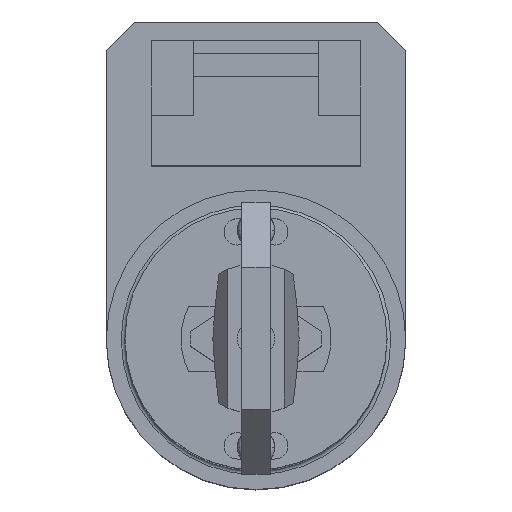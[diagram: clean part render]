
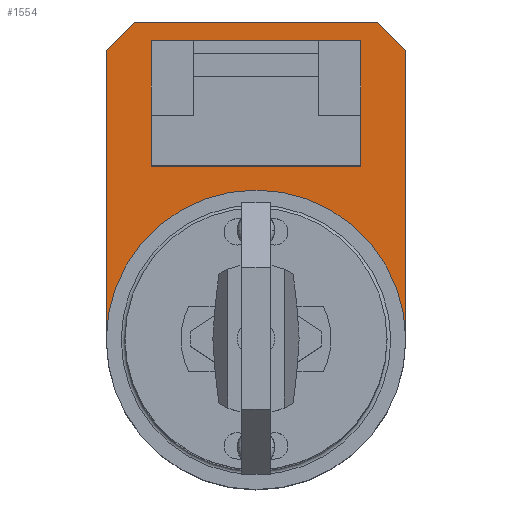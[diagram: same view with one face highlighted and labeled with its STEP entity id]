
A CAD part, top view. The second image highlights one B-rep face of the part: STEP entity #1554.
In plain terms, the highlighted planar face has unit normal (0, 0, 1).
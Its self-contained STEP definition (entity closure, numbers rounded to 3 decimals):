
#16 = CARTESIAN_POINT ( 'NONE',  ( 8., 15.5, -39.3 ) ) ;
#39 = EDGE_CURVE ( 'NONE', #1987, #528, #848, .T. ) ;
#111 = EDGE_CURVE ( 'NONE', #1731, #2351, #3407, .T. ) ;
#123 = AXIS2_PLACEMENT_3D ( 'NONE', #247, #3716, #4091 ) ;
#170 = EDGE_LOOP ( 'NONE', ( #1359, #1247, #4106, #1496 ) ) ;
#182 = ORIENTED_EDGE ( 'NONE', *, *, #4431, .F. ) ;
#193 = VECTOR ( 'NONE', #2693, 1000. ) ;
#208 = EDGE_CURVE ( 'NONE', #3262, #4344, #1489, .T. ) ;
#247 = CARTESIAN_POINT ( 'NONE',  ( 0., 0., -39.3 ) ) ;
#340 = CARTESIAN_POINT ( 'NONE',  ( 5.6, 16., -39.3 ) ) ;
#366 = VECTOR ( 'NONE', #943, 1000. ) ;
#414 = VERTEX_POINT ( 'NONE', #1487 ) ;
#422 = CARTESIAN_POINT ( 'NONE',  ( -5.6, 9.3, -39.3 ) ) ;
#431 = FACE_BOUND ( 'NONE', #170, .T. ) ;
#478 = EDGE_CURVE ( 'NONE', #4344, #1987, #1056, .T. ) ;
#528 = VERTEX_POINT ( 'NONE', #854 ) ;
#550 = AXIS2_PLACEMENT_3D ( 'NONE', #2145, #2843, #3546 ) ;
#562 = CARTESIAN_POINT ( 'NONE',  ( -5.6, 9.3, -39.3 ) ) ;
#629 = ORIENTED_EDGE ( 'NONE', *, *, #3724, .F. ) ;
#659 = VERTEX_POINT ( 'NONE', #3375 ) ;
#818 = EDGE_CURVE ( 'NONE', #659, #1731, #2193, .T. ) ;
#843 = VECTOR ( 'NONE', #2860, 1000. ) ;
#848 = LINE ( 'NONE', #975, #193 ) ;
#854 = CARTESIAN_POINT ( 'NONE',  ( -5.6, 16., -39.3 ) ) ;
#878 = ORIENTED_EDGE ( 'NONE', *, *, #2372, .F. ) ;
#898 = VECTOR ( 'NONE', #3009, 1000. ) ;
#930 = ORIENTED_EDGE ( 'NONE', *, *, #3771, .F. ) ;
#943 = DIRECTION ( 'NONE',  ( 0., 1., 0. ) ) ;
#975 = CARTESIAN_POINT ( 'NONE',  ( -5.6, 16., -39.3 ) ) ;
#1006 = DIRECTION ( 'NONE',  ( 1., 0., 0. ) ) ;
#1056 = LINE ( 'NONE', #340, #2370 ) ;
#1141 = CIRCLE ( 'NONE', #123, 8. ) ;
#1163 = CARTESIAN_POINT ( 'NONE',  ( -8., 15.5, -39.3 ) ) ;
#1179 = LINE ( 'NONE', #2278, #366 ) ;
#1232 = CARTESIAN_POINT ( 'NONE',  ( 5.6, 9.3, -39.3 ) ) ;
#1247 = ORIENTED_EDGE ( 'NONE', *, *, #39, .F. ) ;
#1267 = CARTESIAN_POINT ( 'NONE',  ( -6.5, 17., -39.3 ) ) ;
#1323 = DIRECTION ( 'NONE',  ( 0., -1., 0. ) ) ;
#1359 = ORIENTED_EDGE ( 'NONE', *, *, #2844, .F. ) ;
#1425 = DIRECTION ( 'NONE',  ( 0.707, -0.707, 0. ) ) ;
#1487 = CARTESIAN_POINT ( 'NONE',  ( 0., 8., -39.3 ) ) ;
#1489 = LINE ( 'NONE', #422, #843 ) ;
#1496 = ORIENTED_EDGE ( 'NONE', *, *, #208, .F. ) ;
#1554 = ADVANCED_FACE ( 'NONE', ( #2797, #431 ), #4233, .F. ) ;
#1607 = CARTESIAN_POINT ( 'NONE',  ( 8., 0., -39.3 ) ) ;
#1723 = DIRECTION ( 'NONE',  ( 0., 1., 0. ) ) ;
#1731 = VERTEX_POINT ( 'NONE', #3205 ) ;
#1739 = ORIENTED_EDGE ( 'NONE', *, *, #818, .F. ) ;
#1958 = DIRECTION ( 'NONE',  ( 0., 0., 1. ) ) ;
#1979 = CARTESIAN_POINT ( 'NONE',  ( 8., 0., -39.3 ) ) ;
#1987 = VERTEX_POINT ( 'NONE', #3499 ) ;
#2017 = CARTESIAN_POINT ( 'NONE',  ( -5.6, 16., -39.3 ) ) ;
#2145 = CARTESIAN_POINT ( 'NONE',  ( 0., 0., -39.3 ) ) ;
#2193 = LINE ( 'NONE', #3760, #4013 ) ;
#2278 = CARTESIAN_POINT ( 'NONE',  ( -8., 0., -39.3 ) ) ;
#2343 = CARTESIAN_POINT ( 'NONE',  ( 0., 0., -39.3 ) ) ;
#2351 = VERTEX_POINT ( 'NONE', #4017 ) ;
#2370 = VECTOR ( 'NONE', #1723, 1000. ) ;
#2372 = EDGE_CURVE ( 'NONE', #2387, #414, #1141, .T. ) ;
#2387 = VERTEX_POINT ( 'NONE', #1607 ) ;
#2588 = EDGE_CURVE ( 'NONE', #414, #3883, #2834, .T. ) ;
#2661 = EDGE_LOOP ( 'NONE', ( #878, #930, #4315, #1739, #182, #629, #2673 ) ) ;
#2673 = ORIENTED_EDGE ( 'NONE', *, *, #2588, .F. ) ;
#2686 = DIRECTION ( 'NONE',  ( 0., -1., 0. ) ) ;
#2693 = DIRECTION ( 'NONE',  ( -1., 0., 0. ) ) ;
#2797 = FACE_OUTER_BOUND ( 'NONE', #2661, .T. ) ;
#2834 = CIRCLE ( 'NONE', #2923, 8. ) ;
#2843 = DIRECTION ( 'NONE',  ( 0., 0., -1. ) ) ;
#2844 = EDGE_CURVE ( 'NONE', #528, #3262, #3871, .T. ) ;
#2860 = DIRECTION ( 'NONE',  ( 1., 0., 0. ) ) ;
#2923 = AXIS2_PLACEMENT_3D ( 'NONE', #2343, #1958, #2686 ) ;
#3009 = DIRECTION ( 'NONE',  ( 0.707, 0.707, 0. ) ) ;
#3060 = CARTESIAN_POINT ( 'NONE',  ( -8., 0., -39.3 ) ) ;
#3089 = LINE ( 'NONE', #1979, #3975 ) ;
#3198 = VERTEX_POINT ( 'NONE', #1163 ) ;
#3203 = VECTOR ( 'NONE', #1323, 1000. ) ;
#3205 = CARTESIAN_POINT ( 'NONE',  ( 6.5, 17., -39.3 ) ) ;
#3262 = VERTEX_POINT ( 'NONE', #562 ) ;
#3297 = LINE ( 'NONE', #1267, #898 ) ;
#3375 = CARTESIAN_POINT ( 'NONE',  ( -6.5, 17., -39.3 ) ) ;
#3407 = LINE ( 'NONE', #16, #3911 ) ;
#3499 = CARTESIAN_POINT ( 'NONE',  ( 5.6, 16., -39.3 ) ) ;
#3546 = DIRECTION ( 'NONE',  ( 0., 1., 0. ) ) ;
#3716 = DIRECTION ( 'NONE',  ( 0., 0., 1. ) ) ;
#3724 = EDGE_CURVE ( 'NONE', #3883, #3198, #1179, .T. ) ;
#3760 = CARTESIAN_POINT ( 'NONE',  ( 6.5, 17., -39.3 ) ) ;
#3771 = EDGE_CURVE ( 'NONE', #2351, #2387, #3089, .T. ) ;
#3871 = LINE ( 'NONE', #2017, #3203 ) ;
#3883 = VERTEX_POINT ( 'NONE', #3060 ) ;
#3911 = VECTOR ( 'NONE', #1425, 1000. ) ;
#3975 = VECTOR ( 'NONE', #4397, 1000. ) ;
#4013 = VECTOR ( 'NONE', #1006, 1000. ) ;
#4017 = CARTESIAN_POINT ( 'NONE',  ( 8., 15.5, -39.3 ) ) ;
#4091 = DIRECTION ( 'NONE',  ( 0., -1., 0. ) ) ;
#4106 = ORIENTED_EDGE ( 'NONE', *, *, #478, .F. ) ;
#4233 = PLANE ( 'NONE',  #550 ) ;
#4315 = ORIENTED_EDGE ( 'NONE', *, *, #111, .F. ) ;
#4344 = VERTEX_POINT ( 'NONE', #1232 ) ;
#4397 = DIRECTION ( 'NONE',  ( 0., -1., 0. ) ) ;
#4431 = EDGE_CURVE ( 'NONE', #3198, #659, #3297, .T. ) ;
